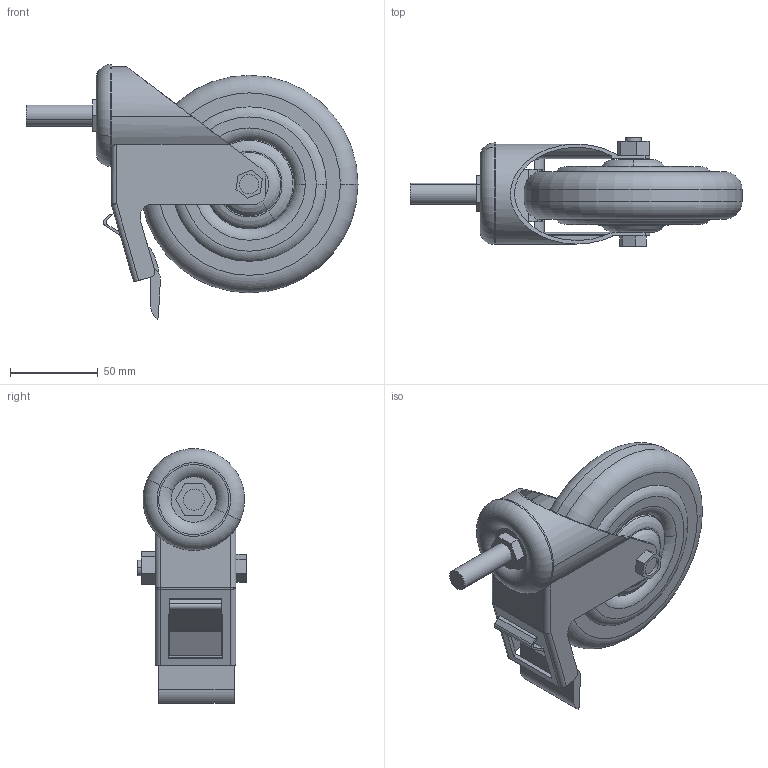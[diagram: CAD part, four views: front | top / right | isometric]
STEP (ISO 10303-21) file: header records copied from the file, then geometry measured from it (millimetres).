
FILE_DESCRIPTION (( 'STEP AP203' ), '1' );
FILE_NAME ('RSI937125.STEP', '2016-04-03T09:19:02', ( '' ), ( '' ), 'SwSTEP 2.0', 'SolidWorks 2014', '' );
FILE_SCHEMA (( 'CONFIG_CONTROL_DESIGN' ));
Length unit declared in the file: millimetre
Products named in the file (7): 闃膼瘔; 搿錓; ãàéêà; ïîäøèáíèê; RSI937125; 膰錼勷; çàùèòà
Assembly tree (7 placements, depth 2):
  RSI937125
    膰錼勷
    çàùèòà  x2
    闃膼瘔
    搿錓
    ãàéêà
    ïîäøèáíèê
Bounding box: 189.17 x 62 x 144.99 mm (x, y, z)
Volume: 381250.6 mm3; surface area: 99614.8 mm2
Topology: 7 solids, 7 shells, 222 faces, 548 edges, 353 vertices
Faces by surface type: plane 98, cylinder 78, torus 44, sphere 2
Entity records: 6915 total; most frequent: CARTESIAN_POINT 1135, DIRECTION 1135, ORIENTED_EDGE 1008, EDGE_CURVE 504, AXIS2_PLACEMENT_3D 437, VERTEX_POINT 325, VECTOR 261, LINE 261
